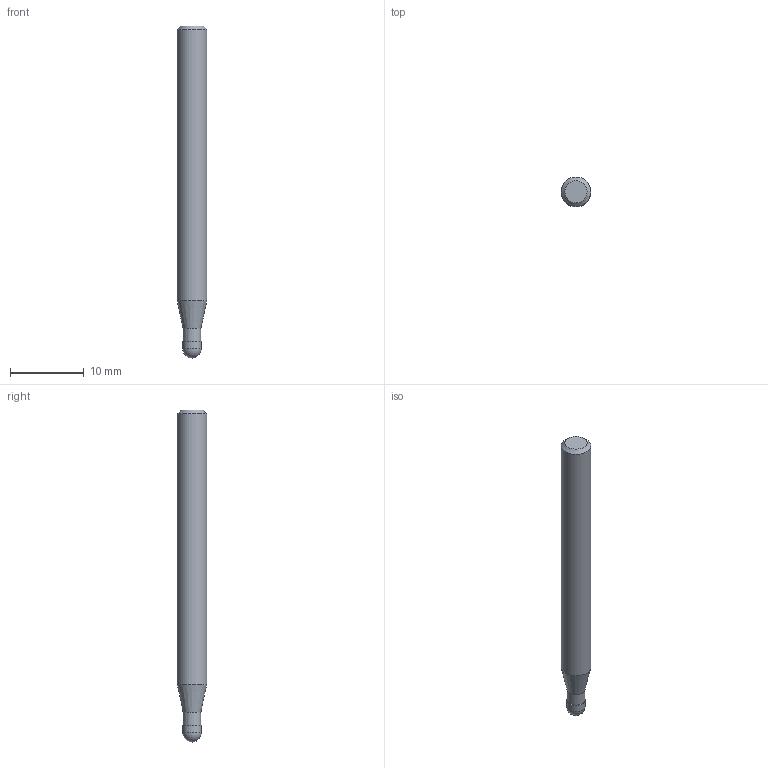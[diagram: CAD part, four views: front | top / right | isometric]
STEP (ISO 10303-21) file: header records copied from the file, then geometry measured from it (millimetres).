
FILE_DESCRIPTION((''),'2;1');
FILE_NAME('C:\Users\nsx150\AppData\Local\Temp\Mastercam 2021\ARV7HD45SN\TEMP.step','2023-06-13T16:38:05',(''),(''),'STEP Write','Mastercam 2021 ... CNC Software, Inc.','');
FILE_SCHEMA(('AUTOMOTIVE_DESIGN'));
Length unit declared in the file: millimetre
Products named in the file (1): None
Bounding box: 4 x 4 x 45 mm (x, y, z)
Volume: 514.3 mm3; surface area: 555.5 mm2
Topology: 2 solids, 2 shells, 9 faces, 14 edges, 8 vertices
Faces by surface type: plane 3, cylinder 3, cone 2, sphere 1
Full cylindrical faces by diameter (mm): 2.4 x1, 2.5 x1, 4 x1
Entity records: 211 total; most frequent: DIRECTION 36, CARTESIAN_POINT 25, AXIS2_PLACEMENT_3D 18, ORIENTED_EDGE 14, EDGE_LOOP 14, STYLED_ITEM 12, ADVANCED_FACE 9, FACE_BOUND 8
